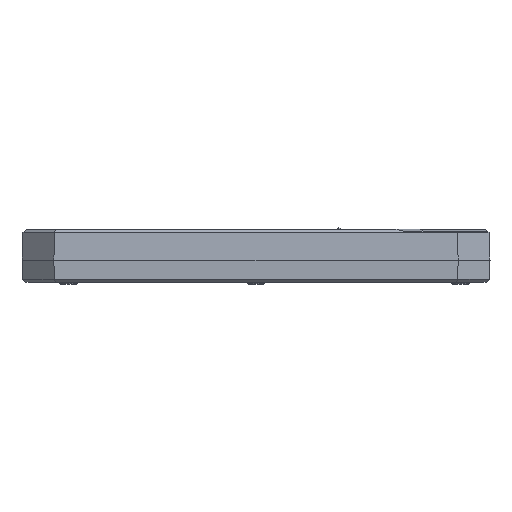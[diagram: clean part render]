
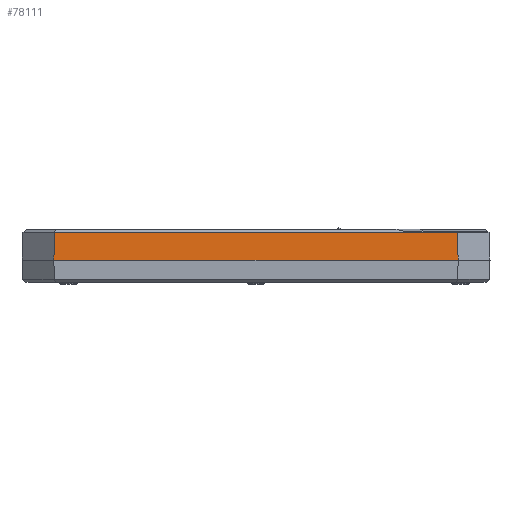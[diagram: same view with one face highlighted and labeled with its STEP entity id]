
A CAD part, left-side view. The second image highlights one B-rep face of the part: STEP entity #78111.
In plain terms, the highlighted planar face has unit normal (-0.999, 0, 0.035).
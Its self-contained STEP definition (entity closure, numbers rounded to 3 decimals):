
#48863 = PLANE('',#48864);
#48864 = AXIS2_PLACEMENT_3D('',#48865,#48866,#48867);
#48865 = CARTESIAN_POINT('',(0.11,15.11,4.995
    ));
#48866 = DIRECTION('',(-0.707,-0.707,
    0.035));
#48867 = DIRECTION('',(-0.707,0.707,0.));
#48889 = PLANE('',#48890);
#48890 = AXIS2_PLACEMENT_3D('',#48891,#48892,#48893);
#48891 = CARTESIAN_POINT('',(168.822,70.437,0.45));
#48892 = DIRECTION('',(0.,0.,-1.));
#48893 = DIRECTION('',(0.,-1.,-0.));
#50898 = PLANE('',#50899);
#50899 = AXIS2_PLACEMENT_3D('',#50900,#50901,#50902);
#50900 = CARTESIAN_POINT('',(1.228,109.89,
    14.25));
#50901 = DIRECTION('',(-0.695,0.,0.719));
#50902 = DIRECTION('',(-0.719,0.,-0.695));
#56095 = VERTEX_POINT('',#56096);
#56096 = CARTESIAN_POINT('',(0.452,15.187,
    13.501));
#56117 = EDGE_CURVE('',#56118,#56095,#56120,.T.);
#56118 = VERTEX_POINT('',#56119);
#56119 = CARTESIAN_POINT('',(-0.004,14.998,0.45));
#56120 = SURFACE_CURVE('',#56121,(#56125,#56132),.PCURVE_S1.);
#56121 = LINE('',#56122,#56123);
#56122 = CARTESIAN_POINT('',(0.155,15.064,5.));
#56123 = VECTOR('',#56124,1.);
#56124 = DIRECTION('',(0.035,0.014,
    0.999));
#56125 = PCURVE('',#48863,#56126);
#56126 = DEFINITIONAL_REPRESENTATION('',(#56127),#56131);
#56127 = LINE('',#56128,#56129);
#56128 = CARTESIAN_POINT('',(-0.064,-0.005));
#56129 = VECTOR('',#56130,1.);
#56130 = DIRECTION('',(-0.014,-1.));
#56131 = ( GEOMETRIC_REPRESENTATION_CONTEXT(2) 
PARAMETRIC_REPRESENTATION_CONTEXT() REPRESENTATION_CONTEXT('2D SPACE',''
  ) );
#56132 = PCURVE('',#56133,#56138);
#56133 = PLANE('',#56134);
#56134 = AXIS2_PLACEMENT_3D('',#56135,#56136,#56137);
#56135 = CARTESIAN_POINT('',(0.155,0.,4.995));
#56136 = DIRECTION('',(-0.999,0.,0.035));
#56137 = DIRECTION('',(0.,1.,0.));
#56138 = DEFINITIONAL_REPRESENTATION('',(#56139),#56143);
#56139 = LINE('',#56140,#56141);
#56140 = CARTESIAN_POINT('',(15.064,-0.005));
#56141 = VECTOR('',#56142,1.);
#56142 = DIRECTION('',(0.014,-1.));
#56143 = ( GEOMETRIC_REPRESENTATION_CONTEXT(2) 
PARAMETRIC_REPRESENTATION_CONTEXT() REPRESENTATION_CONTEXT('2D SPACE',''
  ) );
#56359 = VERTEX_POINT('',#56360);
#56360 = CARTESIAN_POINT('',(-0.004,205.002,0.45));
#56374 = PLANE('',#56375);
#56375 = AXIS2_PLACEMENT_3D('',#56376,#56377,#56378);
#56376 = CARTESIAN_POINT('',(0.11,204.89,
    4.995));
#56377 = DIRECTION('',(-0.707,0.707,0.035
    ));
#56378 = DIRECTION('',(0.707,0.707,0.));
#56386 = EDGE_CURVE('',#56359,#56118,#56387,.T.);
#56387 = SURFACE_CURVE('',#56388,(#56392,#56399),.PCURVE_S1.);
#56388 = LINE('',#56389,#56390);
#56389 = CARTESIAN_POINT('',(-0.004,0.,0.45));
#56390 = VECTOR('',#56391,1.);
#56391 = DIRECTION('',(0.,-1.,0.));
#56392 = PCURVE('',#48889,#56393);
#56393 = DEFINITIONAL_REPRESENTATION('',(#56394),#56398);
#56394 = LINE('',#56395,#56396);
#56395 = CARTESIAN_POINT('',(70.437,168.826));
#56396 = VECTOR('',#56397,1.);
#56397 = DIRECTION('',(1.,0.));
#56398 = ( GEOMETRIC_REPRESENTATION_CONTEXT(2) 
PARAMETRIC_REPRESENTATION_CONTEXT() REPRESENTATION_CONTEXT('2D SPACE',''
  ) );
#56399 = PCURVE('',#56133,#56400);
#56400 = DEFINITIONAL_REPRESENTATION('',(#56401),#56405);
#56401 = LINE('',#56402,#56403);
#56402 = CARTESIAN_POINT('',(0.,4.547));
#56403 = VECTOR('',#56404,1.);
#56404 = DIRECTION('',(-1.,-0.));
#56405 = ( GEOMETRIC_REPRESENTATION_CONTEXT(2) 
PARAMETRIC_REPRESENTATION_CONTEXT() REPRESENTATION_CONTEXT('2D SPACE',''
  ) );
#62358 = VERTEX_POINT('',#62359);
#62359 = CARTESIAN_POINT('',(0.452,204.813,
    13.501));
#62452 = EDGE_CURVE('',#62358,#56095,#62453,.T.);
#62453 = SURFACE_CURVE('',#62454,(#62458,#62465),.PCURVE_S1.);
#62454 = LINE('',#62455,#62456);
#62455 = CARTESIAN_POINT('',(0.452,0.,13.501));
#62456 = VECTOR('',#62457,1.);
#62457 = DIRECTION('',(0.,-1.,0.));
#62458 = PCURVE('',#50898,#62459);
#62459 = DEFINITIONAL_REPRESENTATION('',(#62460),#62464);
#62460 = LINE('',#62461,#62462);
#62461 = CARTESIAN_POINT('',(1.079,109.89));
#62462 = VECTOR('',#62463,1.);
#62463 = DIRECTION('',(-0.,1.));
#62464 = ( GEOMETRIC_REPRESENTATION_CONTEXT(2) 
PARAMETRIC_REPRESENTATION_CONTEXT() REPRESENTATION_CONTEXT('2D SPACE',''
  ) );
#62465 = PCURVE('',#56133,#62466);
#62466 = DEFINITIONAL_REPRESENTATION('',(#62467),#62471);
#62467 = LINE('',#62468,#62469);
#62468 = CARTESIAN_POINT('',(0.,-8.512));
#62469 = VECTOR('',#62470,1.);
#62470 = DIRECTION('',(-1.,-0.));
#62471 = ( GEOMETRIC_REPRESENTATION_CONTEXT(2) 
PARAMETRIC_REPRESENTATION_CONTEXT() REPRESENTATION_CONTEXT('2D SPACE',''
  ) );
#78111 = ADVANCED_FACE('',(#78112),#56133,.T.);
#78112 = FACE_BOUND('',#78113,.T.);
#78113 = EDGE_LOOP('',(#78114,#78115,#78116,#78117));
#78114 = ORIENTED_EDGE('',*,*,#56386,.T.);
#78115 = ORIENTED_EDGE('',*,*,#56117,.T.);
#78116 = ORIENTED_EDGE('',*,*,#62452,.F.);
#78117 = ORIENTED_EDGE('',*,*,#78118,.F.);
#78118 = EDGE_CURVE('',#56359,#62358,#78119,.T.);
#78119 = SURFACE_CURVE('',#78120,(#78124,#78131),.PCURVE_S1.);
#78120 = LINE('',#78121,#78122);
#78121 = CARTESIAN_POINT('',(0.155,204.936,5.));
#78122 = VECTOR('',#78123,1.);
#78123 = DIRECTION('',(0.035,-0.014,
    0.999));
#78124 = PCURVE('',#56133,#78125);
#78125 = DEFINITIONAL_REPRESENTATION('',(#78126),#78130);
#78126 = LINE('',#78127,#78128);
#78127 = CARTESIAN_POINT('',(204.936,-0.005));
#78128 = VECTOR('',#78129,1.);
#78129 = DIRECTION('',(-0.014,-1.));
#78130 = ( GEOMETRIC_REPRESENTATION_CONTEXT(2) 
PARAMETRIC_REPRESENTATION_CONTEXT() REPRESENTATION_CONTEXT('2D SPACE',''
  ) );
#78131 = PCURVE('',#56374,#78132);
#78132 = DEFINITIONAL_REPRESENTATION('',(#78133),#78137);
#78133 = LINE('',#78134,#78135);
#78134 = CARTESIAN_POINT('',(0.064,-0.005));
#78135 = VECTOR('',#78136,1.);
#78136 = DIRECTION('',(0.014,-1.));
#78137 = ( GEOMETRIC_REPRESENTATION_CONTEXT(2) 
PARAMETRIC_REPRESENTATION_CONTEXT() REPRESENTATION_CONTEXT('2D SPACE',''
  ) );
